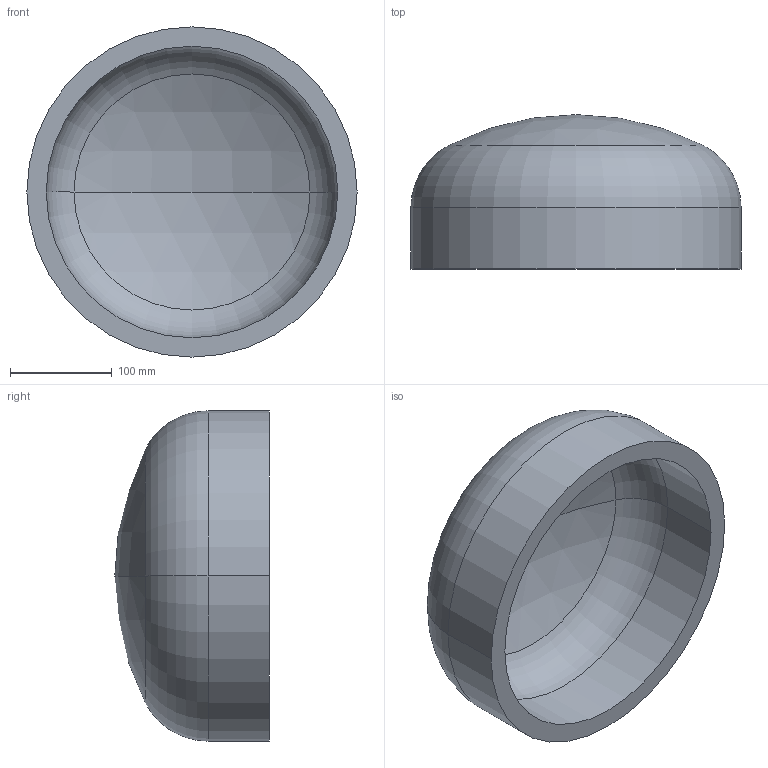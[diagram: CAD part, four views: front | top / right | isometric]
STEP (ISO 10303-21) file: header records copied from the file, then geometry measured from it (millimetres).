
FILE_DESCRIPTION (( 'STEP AP203' ), '1' );
FILE_NAME ('DIN 28013 Korbbogenform_-_Boden DIN 28013 - 323,9 x 60 - I - s=19.step', '2016-07-01T07:44:43', ( '' ), ( '' ), 'SwSTEP 2.0', 'SolidWorks 2013', '' );
FILE_SCHEMA (( 'CONFIG_CONTROL_DESIGN' ));
Length unit declared in the file: millimetre
Products named in the file (1): DIN 28013 Korbbogenform_-_Boden DIN 28013 - 323,9 x 60 - I - s=19
Bounding box: 323.9 x 151.41 x 323.9 mm (x, y, z)
Volume: 3106930.9 mm3; surface area: 346000.9 mm2
Topology: 1 solids, 1 shells, 13 faces, 24 edges, 14 vertices
Faces by surface type: torus 4, cylinder 4, sphere 4, plane 1
Entity records: 407 total; most frequent: DIRECTION 72, CARTESIAN_POINT 52, ORIENTED_EDGE 48, AXIS2_PLACEMENT_3D 34, EDGE_CURVE 24, CIRCLE 20, VERTEX_POINT 14, EDGE_LOOP 14
